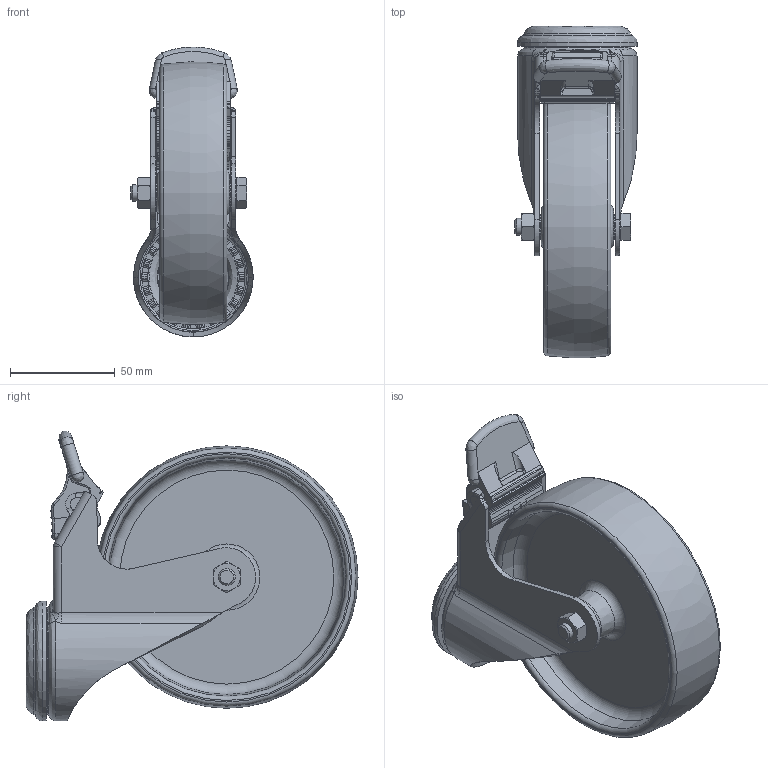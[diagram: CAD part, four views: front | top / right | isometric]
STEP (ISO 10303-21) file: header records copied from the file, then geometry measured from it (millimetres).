
FILE_DESCRIPTION (( 'STEP AP214' ), '1' );
FILE_NAME ('LKRXA-PO_126G-FI_758425-214.step', '2013-03-06T16:13:14', ( '' ), ( '' ), 'SwSTEP 2.0', 'SolidWorks 2010', '' );
FILE_SCHEMA (( 'AUTOMOTIVE_DESIGN' ));
Length unit declared in the file: millimetre
Products named in the file (5): GH-LKRXA_125-13-FI_G15; AM_LKPXA_8x40,5x2,25_D12; PO_G15_PO_126_12G_755203; PO-G-R_G15_PO_126_12G_755203; LKRXA-PO_126G-FI_758425-214
Assembly tree (4 placements, depth 3):
  LKRXA-PO_126G-FI_758425-214
    AM_LKPXA_8x40,5x2,25_D12
    GH-LKRXA_125-13-FI_G15
    PO_G15_PO_126_12G_755203
      PO-G-R_G15_PO_126_12G_755203
Bounding box: 58.25 x 158.14 x 138.05 mm (x, y, z)
Volume: 217561.4 mm3; surface area: 93314 mm2
Topology: 3 solids, 3 shells, 2042 faces, 5425 edges, 3473 vertices
Faces by surface type: plane 844, bspline 801, cylinder 350, cone 36, torus 11
Full cylindrical faces by diameter (mm): 8 x3, 12 x1, 12.2 x1, 13 x2, 20.45 x1, 57 x1
Entity records: 119739 total; most frequent: CARTESIAN_POINT 53357, ORIENTED_EDGE 10688, DIRECTION 6340, EDGE_CURVE 5344, VERTEX_POINT 3455, VECTOR 2684, LINE 2684, EDGE_LOOP 2203
